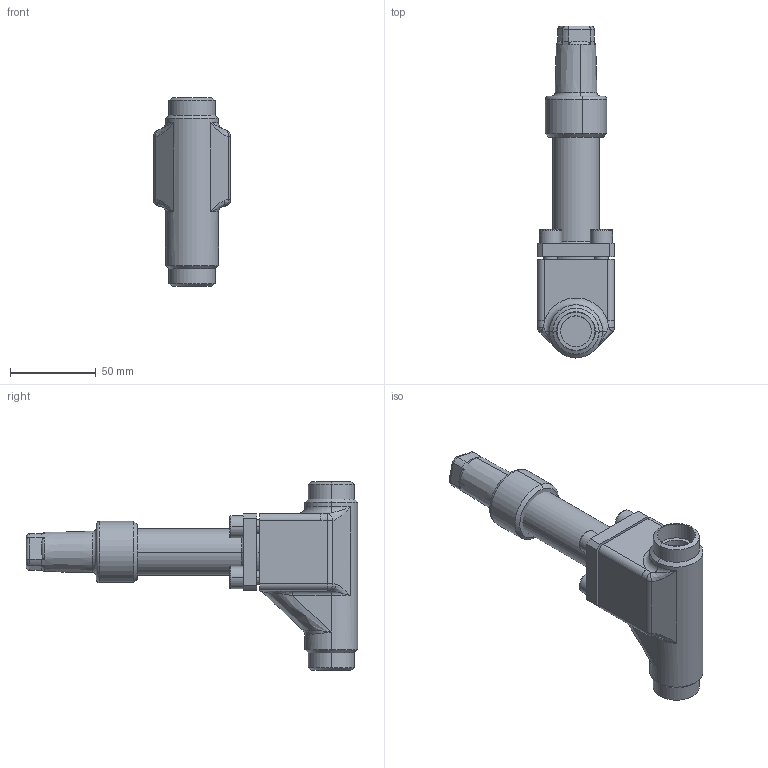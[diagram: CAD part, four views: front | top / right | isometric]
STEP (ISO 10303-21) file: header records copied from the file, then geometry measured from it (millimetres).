
FILE_DESCRIPTION (( 'STEP AP214' ), '1' );
FILE_NAME ('RVAK97300-DN020_R1_PS40.STEP', '2006-05-02T08:34:47', ( 'Herr Grams' ), ( 'AWP GmbH' ), 'SwSTEP 2.0', 'SolidWorks 2002296', '' );
FILE_SCHEMA (( 'AUTOMOTIVE_DESIGN' ));
Length unit declared in the file: millimetre
Products named in the file (6): RVAK97300-DN020_R1_PS40; Kappe96300E10_DN6-20_Standard; RVA99300E11_Deck+Schr-DN20_Standard; Deckel99300E11-DN20_PS40_Standard; Zylinderschraube-DIN912_M 8x 20; Gehäuse96300E11-DN20_PS40_R1_Standard
Assembly tree (8 placements, depth 3):
  RVAK97300-DN020_R1_PS40
    RVA99300E11_Deck+Schr-DN20_Standard
      Zylinderschraube-DIN912_M 8x 20  x4
      Deckel99300E11-DN20_PS40_Standard
    Kappe96300E10_DN6-20_Standard
    Gehäuse96300E11-DN20_PS40_R1_Standard
Bounding box: 45 x 194 x 110 mm (x, y, z)
Volume: 200666.8 mm3; surface area: 54515.9 mm2
Topology: 7 solids, 7 shells, 251 faces, 558 edges, 335 vertices
Faces by surface type: cylinder 93, plane 85, torus 28, cone 26, bspline 13, sphere 6
Entity records: 16968 total; most frequent: CARTESIAN_POINT 11987, DIRECTION 961, ORIENTED_EDGE 876, EDGE_CURVE 438, AXIS2_PLACEMENT_3D 400, VERTEX_POINT 263, EDGE_LOOP 223, CIRCLE 204
